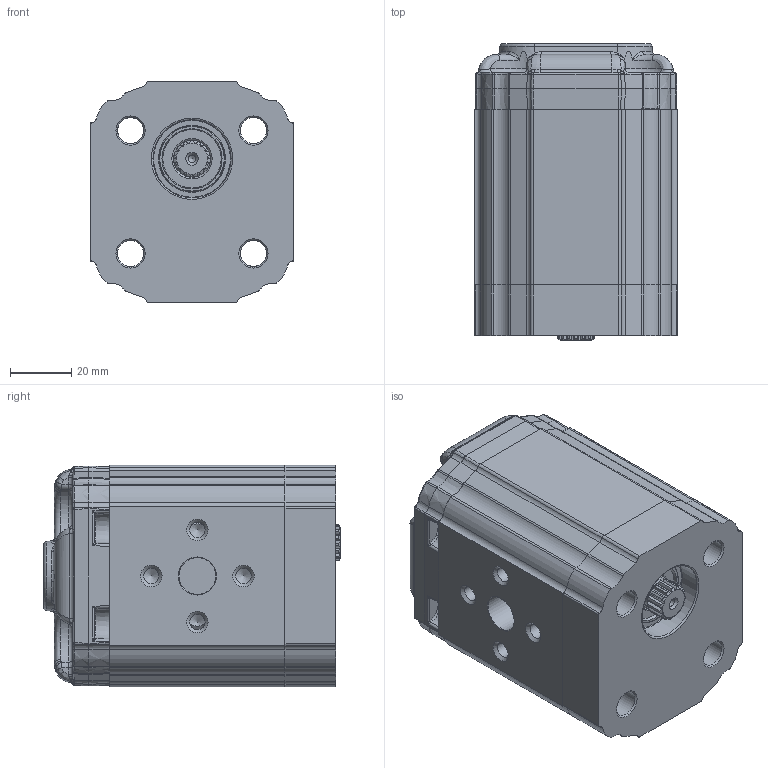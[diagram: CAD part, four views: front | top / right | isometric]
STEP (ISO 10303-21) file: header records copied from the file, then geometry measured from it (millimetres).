
FILE_DESCRIPTION(/* description */ ('Unknown'),/* implementation_level */ '2;1');
FILE_NAME(/* name */ 'X1F2974TIIA',/* time_stamp */ '2026-05-27T08:48:31+02:00',/* author */ ('Unknown'),/* organization */ ('Unknown'),/* preprocessor_version */ 'ST-DEVELOPER v16.7',/* originating_system */ 'Solid Edge',/* authorisation */ 'Unknown');
FILE_SCHEMA (('AUTOMOTIVE_DESIGN {1 0 10303 214 3 1 1}'));
Products named in the file (5): X1F2974TIIA; X1F74; 1T; X1IIH57; XF102-A
Assembly tree (4 placements, depth 2):
  X1F2974TIIA
    X1F74
    1T
    X1IIH57
    XF102-A
Bounding box: 66 x 96.5 x 72 mm (x, y, z)
Volume: 353936.9 mm3; surface area: 61724.7 mm2
Topology: 4 solids, 4 shells, 1781 faces, 4306 edges, 2570 vertices
Faces by surface type: cylinder 618, bspline 460, plane 362, cone 176, torus 122, sphere 43
Full cylindrical faces by diameter (mm): 2.5 x1, 3 x2, 5 x8, 8.5 x6, 9 x2, 9.9 x1, 10.5 x2, 11.965 x1, 12 x2, 13.107 x1, 14.692 x1, 17.135 x1, 19 x1, 21.4 x1, 25.4 x1
Entity records: 92792 total; most frequent: CARTESIAN_POINT 41894, ORIENTED_EDGE 8284, DIRECTION 7822, EDGE_CURVE 4142, AXIS2_PLACEMENT_3D 3194, VERTEX_POINT 2530, FACE_BOUND 1976, EDGE_LOOP 1965
